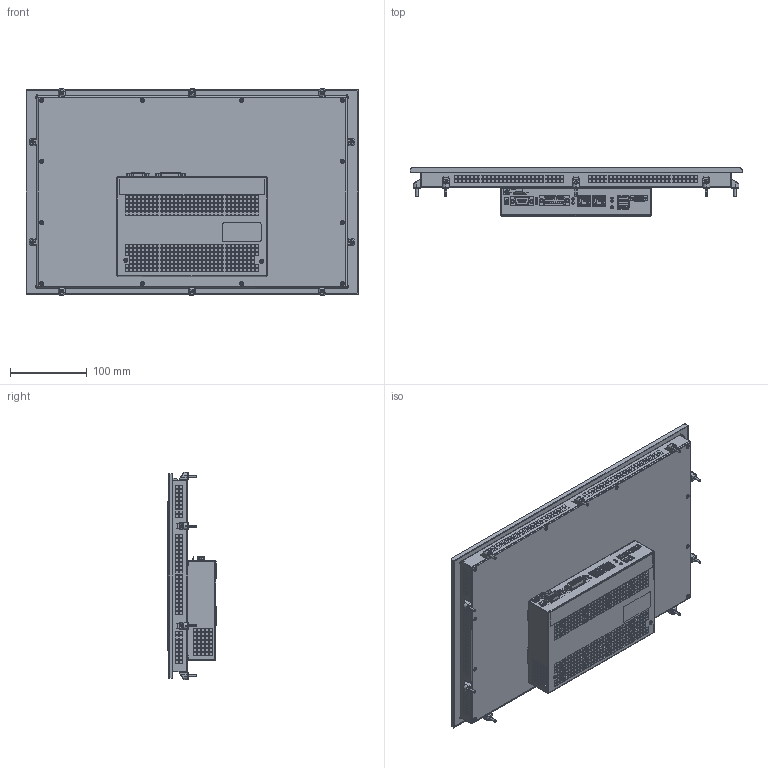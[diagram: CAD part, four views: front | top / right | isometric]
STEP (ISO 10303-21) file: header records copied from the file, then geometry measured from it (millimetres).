
FILE_DESCRIPTION (( 'STEP AP214' ), '1' );
FILE_NAME ('C6S14_156W_CAP_UPS_DB15.STEP', '2019-07-29T09:01:23', ( '' ), ( '' ), 'SwSTEP 2.0', 'SolidWorks 2018', '' );
FILE_SCHEMA (( 'AUTOMOTIVE_DESIGN' ));
Length unit declared in the file: millimetre
Products named in the file (4): C6S14_156W_CAP_ASM_1; C6S14_156W_CAP_UPS_1; C6S14_156W_CAP_UPS_DB15; DB15_Male_pin
Assembly tree (3 placements, depth 2):
  C6S14_156W_CAP_UPS_DB15
    C6S14_156W_CAP_ASM_1
    C6S14_156W_CAP_UPS_1
    DB15_Male_pin
Bounding box: 433 x 62.8 x 270 mm (x, y, z)
Surface area: 720603.2 mm2
Topology: 1 solids, 4814 shells, 5033 faces, 28561 edges, 28347 vertices
Faces by surface type: plane 3857, cylinder 788, cone 189, bspline 137, torus 42, sphere 20
Entity records: 328665 total; most frequent: CARTESIAN_POINT 124439, DIRECTION 33489, ORIENTED_EDGE 29084, EDGE_CURVE 28525, VERTEX_POINT 28330, VECTOR 19965, LINE 19965, AXIS2_PLACEMENT_3D 6762
